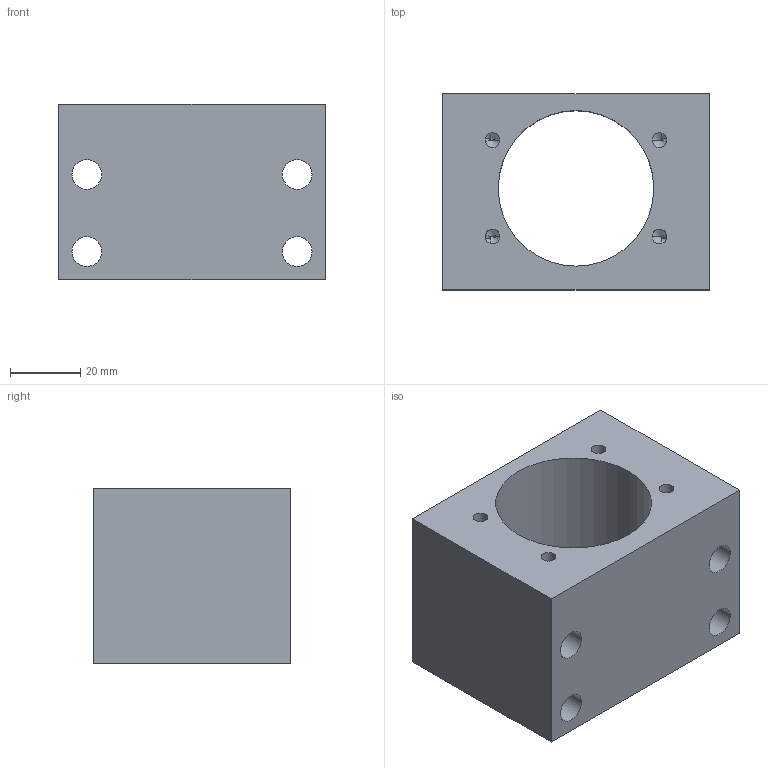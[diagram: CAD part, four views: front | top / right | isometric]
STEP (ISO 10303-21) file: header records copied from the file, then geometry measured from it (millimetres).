
FILE_DESCRIPTION((''),'2;1');
FILE_NAME('NH20C','2020-03-31T',('Administrator'),(''),'PRO/ENGINEER BY PARAMETRIC TECHNOLOGY CORPORATION, 2010280','PRO/ENGINEER BY PARAMETRIC TECHNOLOGY CORPORATION, 2010280','');
FILE_SCHEMA(('CONFIG_CONTROL_DESIGN'));
Length unit declared in the file: millimetre
Products named in the file (1): NH20C
Bounding box: 76 x 56 x 50 mm (x, y, z)
Volume: 119624.6 mm3; surface area: 32226.1 mm2
Topology: 1 solids, 1 shells, 56 faces, 174 edges, 112 vertices
Faces by surface type: cylinder 26, cone 16, plane 14
Entity records: 2011 total; most frequent: CARTESIAN_POINT 441, DIRECTION 326, ORIENTED_EDGE 316, EDGE_CURVE 158, AXIS2_PLACEMENT_3D 132, VERTEX_POINT 112, CIRCLE 76, EDGE_LOOP 74
